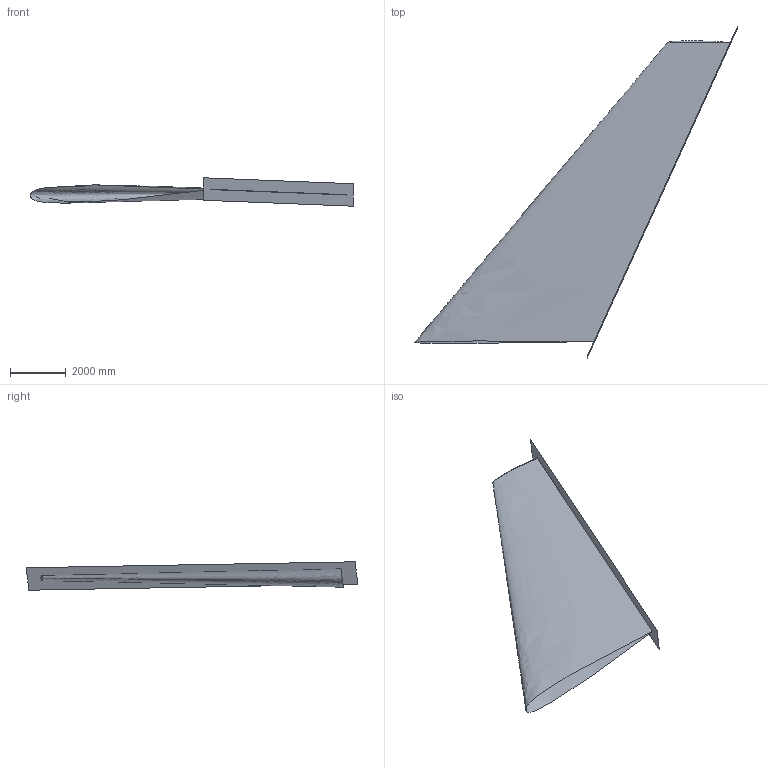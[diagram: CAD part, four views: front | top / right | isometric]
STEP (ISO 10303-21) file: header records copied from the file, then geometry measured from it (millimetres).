
FILE_DESCRIPTION((''),'2;1');
FILE_NAME('','2023-02-14T15:52:59',(''),(''),'','CADfix','');
FILE_SCHEMA(('AUTOMOTIVE_DESIGN { 1 0 10303 214 1 1 1 1 }'));
Bounding box: 11589.71 x 11914.01 x 1019.62 mm (x, y, z)
Surface area: 107074107.4 mm2 (no closed solid volume)
Topology: 0 solids, 0 shells, 3 faces, 12 edges, 11 vertices
Faces by surface type: bspline 3
Entity records: 41287 total; most frequent: CARTESIAN_POINT 41265, B_SPLINE_SURFACE_WITH_KNOTS 3, DIMENSIONAL_EXPONENTS 2, PLANE_ANGLE_MEASURE_WITH_UNIT 1, LENGTH_MEASURE_WITH_UNIT 1, UNCERTAINTY_MEASURE_WITH_UNIT 1, GEOMETRIC_SET 1, GEOMETRICALLY_BOUNDED_SURFACE_SHAPE_REPRESENTATION 1
